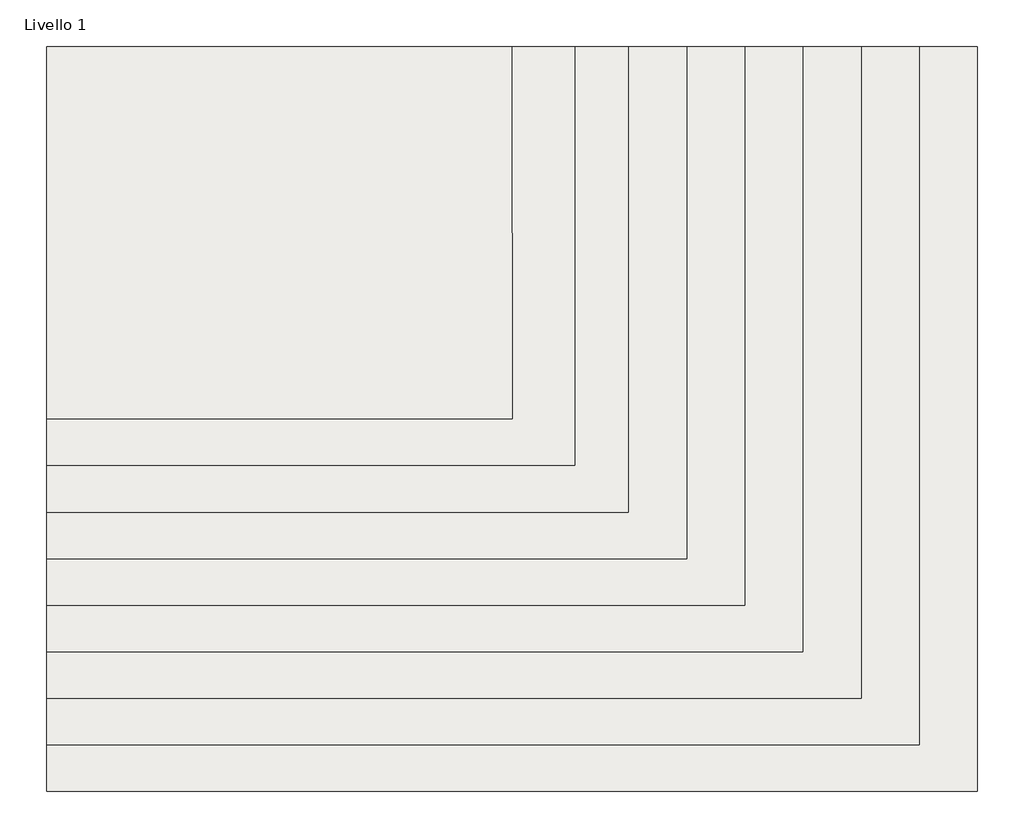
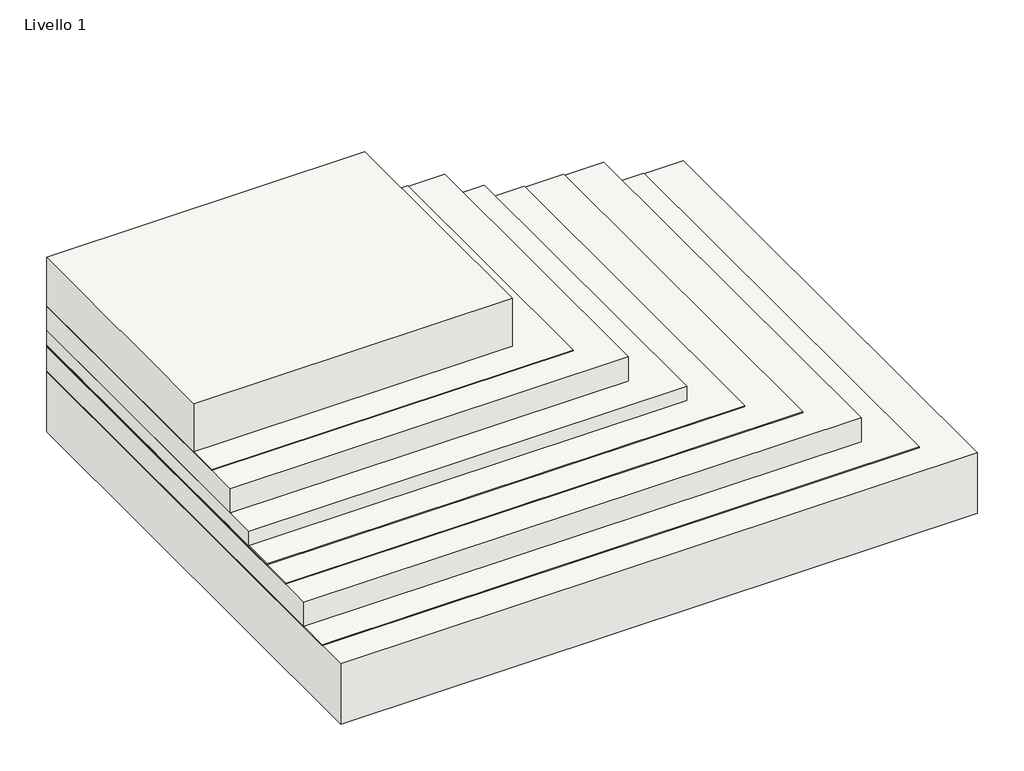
# One storey: 1 slab.
"""IFC4 building model written with IfcOpenShell, lengths in millimetres."""

from ifc_helpers import new_model, si_unit, frame, origin, place, context, project, spatial, polyline, outline, extrude, element, save

model = new_model("IFC4")

# Units and contexts
model_context = context("Model", 3, world=origin())
ifc_project = project(units=[si_unit("LENGTHUNIT", "METRE", prefix="MILLI")], contexts=[model_context])

# Site, building, storey
site = spatial("IfcSite", under=ifc_project)
building = spatial("IfcBuilding", under=site)
storey = spatial("IfcBuildingStorey", under=building, Name="Livello 1", Elevation=0.0)

# Slab
placement = place(None, origin())
element("IfcSlab", 1, ObjectType="POLYGLASS - BM6.1", at=placement, inside=storey, context=model_context, shape_type="SweptSolid", body=[
    extrude(outline(polyline([(1457.7963918, 1184.9122843), (207.7963918, 1184.9122843), (207.7963918, 2184.9122843), (1457.7963918, 2184.9122843), (1457.7963918, 1184.9122843)])), frame((0.0, 0.0, -200.0), z_axis=(0.0, 0.0, 1.0), x_axis=(1.0, 0.0, 0.0)), (0.0, 0.0, 1.0), 200.0),
    extrude(outline(polyline([(1626.2278146, 1059.9122843), (207.7963918, 1059.9122843), (207.7963918, 2184.9122843), (1626.2278146, 2184.9122843), (1626.2278146, 1059.9122843)])), frame((0.0, 0.0, -202.0), z_axis=(0.0, 0.0, 1.0), x_axis=(1.0, 0.0, 0.0)), (0.0, 0.0, 1.0), 2.0),
    extrude(outline(polyline([(1770.2963918, 934.9122843), (207.7963918, 934.9122843), (207.7963918, 2184.9122843), (1770.2963918, 2184.9122843), (1770.2963918, 934.9122843)])), frame((0.0, 0.0, -302.0), z_axis=(0.0, 0.0, 1.0), x_axis=(1.0, 0.0, 0.0)), (0.0, 0.0, 1.0), 100.0),
    extrude(outline(polyline([(1926.5463918, 809.9122843), (207.7963918, 809.9122843), (207.7963918, 2184.9122843), (1926.5463918, 2184.9122843), (1926.5463918, 809.9122843)])), frame((0.0, 0.0, -362.0), z_axis=(0.0, 0.0, 1.0), x_axis=(1.0, 0.0, 0.0)), (0.0, 0.0, 1.0), 60.0),
    extrude(outline(polyline([(2082.7963918, 684.9122843), (207.7963918, 684.9122843), (207.7963918, 2184.9122843), (2082.7963918, 2184.9122843), (2082.7963918, 684.9122843)])), frame((0.0, 0.0, -366.25), z_axis=(0.0, 0.0, 1.0), x_axis=(1.0, 0.0, 0.0)), (0.0, 0.0, 1.0), 4.25),
    extrude(outline(polyline([(2239.0463918, 559.9122843), (207.7963918, 559.9122843), (207.7963918, 2184.9122843), (2239.0463918, 2184.9122843), (2239.0463918, 559.9122843)])), frame((0.0, 0.0, -370.25), z_axis=(0.0, 0.0, 1.0), x_axis=(1.0, 0.0, 0.0)), (0.0, 0.0, 1.0), 4.0),
    extrude(outline(polyline([(2395.2963918, 434.9122843), (207.7963918, 434.9122843), (207.7963918, 2184.9122843), (2395.2963918, 2184.9122843), (2395.2963918, 434.9122843)])), frame((0.0, 0.0, -470.25), z_axis=(0.0, 0.0, 1.0), x_axis=(1.0, 0.0, 0.0)), (0.0, 0.0, 1.0), 100.0),
    extrude(outline(polyline([(2551.5463918, 309.9122843), (207.7963918, 309.9122843), (207.7963918, 2184.9122843), (2551.5463918, 2184.9122843), (2551.5463918, 309.9122843)])), frame((0.0, 0.0, -473.85), z_axis=(0.0, 0.0, 1.0), x_axis=(1.0, 0.0, 0.0)), (0.0, 0.0, 1.0), 3.6),
    extrude(outline(polyline([(2707.7963918, 184.9122843), (207.7963918, 184.9122843), (207.7963918, 2184.9122843), (2707.7963918, 2184.9122843), (2707.7963918, 184.9122843)])), frame((0.0, 0.0, -723.85), z_axis=(0.0, 0.0, 1.0), x_axis=(1.0, 0.0, 0.0)), (0.0, 0.0, 1.0), 250.0),
])

save(model, "model.ifc")
